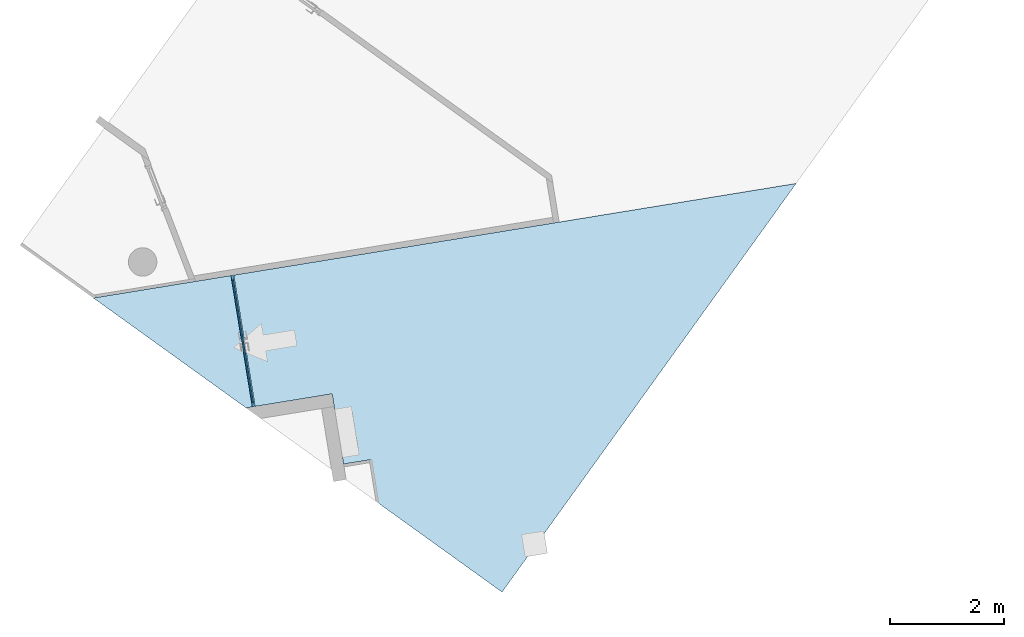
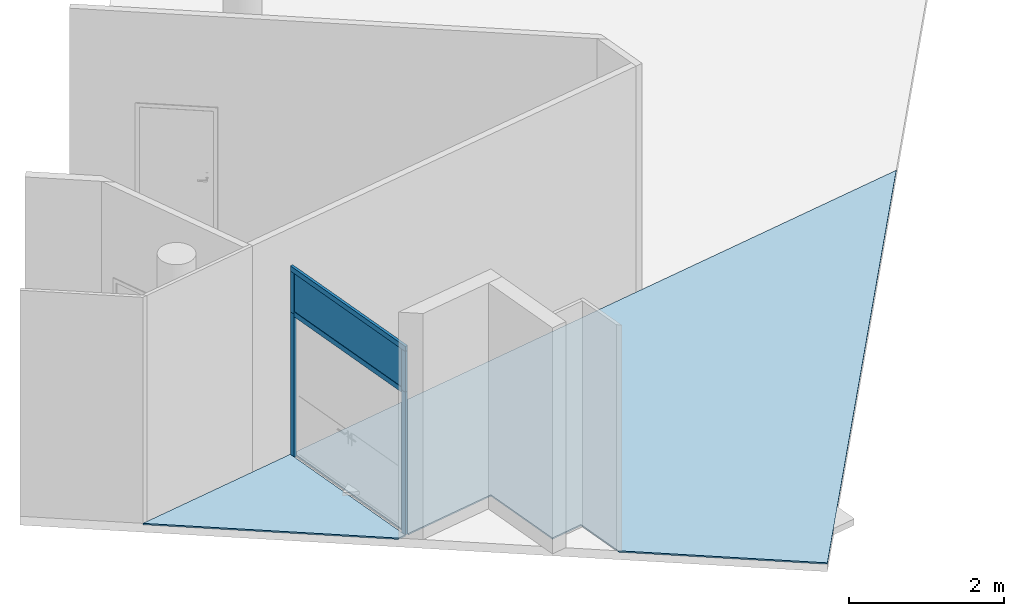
# One storey, part 2 of 10: 6 members, 2 slabs, 1 plate, 1 element without a shape of its own.
"""IFC2X3 building model written with IfcOpenShell, lengths in millimetres."""

from ifc_helpers import new_model, entity, si_unit, converted_unit, derived_unit, direction, frame, origin, origin_with_axes, origin_2d_with_axis, place, context, subcontext, project, spatial, rectangle, extrude, faceted_brep, source, transform, mapped, material, layer, layer_set, type_object, element, aggregate, save


model = new_model("IFC2X3")

# Units and contexts
model_context = context("Model", 3, precision=0.01, world=origin(), true_north=direction((6.12323399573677e-17, 1.0)))
plan_context = context("Plan", 3, precision=1e-05, world=origin_with_axes())
body_context = subcontext(model_context, "Body", "Model", "MODEL_VIEW")
ifc_project = project(units=[converted_unit("PLANEANGLEUNIT", "DEGREE", entity("IfcPositiveLengthMeasure", 0.0174532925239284), si_unit("PLANEANGLEUNIT", "RADIAN"), dimensions=[0, 0, 0, 0, 0, 0, 0]), si_unit("AREAUNIT", "SQUARE_METRE"), si_unit("LENGTHUNIT", "METRE", prefix="MILLI"), si_unit("MASSUNIT", "GRAM", prefix="KILO"), si_unit("POWERUNIT", "WATT"), si_unit("PRESSUREUNIT", "PASCAL", prefix="KILO"), si_unit("FORCEUNIT", "NEWTON", prefix="KILO"), si_unit("ELECTRICVOLTAGEUNIT", "VOLT"), si_unit("ELECTRICCURRENTUNIT", "AMPERE"), si_unit("THERMODYNAMICTEMPERATUREUNIT", "DEGREE_CELSIUS"), si_unit("TIMEUNIT", "SECOND"), si_unit("VOLUMEUNIT", "CUBIC_METRE"), derived_unit("LINEARVELOCITYUNIT", [(si_unit("LENGTHUNIT", "METRE"), 1), (si_unit("TIMEUNIT", "SECOND"), -1)]), derived_unit("VOLUMETRICFLOWRATEUNIT", [(si_unit("VOLUMEUNIT", "CUBIC_METRE"), 1), (si_unit("TIMEUNIT", "SECOND"), -1)]), derived_unit("THERMALTRANSMITTANCEUNIT", [(si_unit("POWERUNIT", "WATT"), 1), (si_unit("THERMODYNAMICTEMPERATUREUNIT", "KELVIN"), -1), (si_unit("AREAUNIT", "SQUARE_METRE"), -1)]), derived_unit("SOUNDPRESSUREUNIT", [(si_unit("PRESSUREUNIT", "PASCAL"), 1)])], contexts=[model_context, plan_context])

# Site, building, storey
site_placement = place(None, frame((-305029.896016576, -232111.759730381, 0.0), z_axis=(0.0, 0.0, 1.0), x_axis=(-0.160806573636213, 0.986985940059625, 0.0)))
site = spatial("IfcSite", under=ifc_project, at=site_placement, Name="Default", CompositionType="ELEMENT")
building_placement = place(site_placement, frame((0.0, 0.0, 0.0), z_axis=(0.0, 0.0, 1.0), x_axis=(1.0, -2.77555756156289e-17, 0.0)))
building = spatial("IfcBuilding", under=site, at=building_placement, Name="br001-a-200-1-0001", CompositionType="ELEMENT")
storey_placement = place(building_placement, frame((0.0, 0.0, 55500.0), z_axis=(0.0, 0.0, 1.0), x_axis=(1.0, -2.77555756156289e-17, 0.0)))
storey = spatial("IfcBuildingStorey", under=building, at=storey_placement, Name="H02-Nivå F-3,5 m", CompositionType="ELEMENT", Elevation=55500.0)

# Curtain wall, members, plate
curtain_wall_type = type_object("IfcCurtainWallType", Name="Curtain Wall:A243 Innvendig glassvegg", PredefinedType="NOTDEFINED")
curtain_wall_placement = place(storey_placement, frame((0.0, 0.0, -55500.0), z_axis=(0.0, 0.0, 1.0), x_axis=(1.0, -2.77555756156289e-17, 0.0)))
curtain_wall = element("IfcCurtainWall", 1, at=curtain_wall_placement, inside=storey, type_object=curtain_wall_type, Name="Curtain Wall:A243 Innvendig glassvegg", ObjectType="Curtain Wall:A243 Innvendig glassvegg")
ifc_material_1 = material(Name="Metal - Aluminium")
member_type_1 = type_object("IfcMemberType", Name="Rectangular Mullion:80 x 40 mm", PredefinedType="MULLION", material=ifc_material_1)
shared_shape_1 = source(origin(), body_context, "Body", "SweptSolid", [
    extrude(rectangle(XDim=80.0, YDim=40.0, at=origin_2d_with_axis()), frame((-40.0, 0.0, -640.0), z_axis=(0.0, 0.0, 1.0), x_axis=(-1.0, 0.0, 0.0)), (0.0, 0.0, 1.0), 639.999999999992),
])
member_1_placement = place(curtain_wall_placement, frame((1175854.09858442, -676279.199921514, 58380.0), z_axis=(0.0, 0.0, 1.0), x_axis=(-1.0, 2.77555756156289e-17, 0.0)))
member_1 = element("IfcMember", 2, at=member_1_placement, type_object=member_type_1, material=ifc_material_1, Name="Rectangular Mullion:80 x 40 mm", ObjectType="Rectangular Mullion:80 x 40 mm", context=body_context, shape_type="MappedRepresentation", body=[
    mapped(shared_shape_1, transform((0.0, 0.0, 0.0), scale=1.0)),
])
member_type_2 = type_object("IfcMemberType", Name="Rectangular Mullion:80 x 40 mm", PredefinedType="MULLION", material=ifc_material_1)
member_2_placement = place(curtain_wall_placement, frame((1178192.59858442, -676279.199921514, 57740.0), z_axis=(0.0, 0.0, -1.0), x_axis=(1.0, -2.77555756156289e-17, 0.0)))
member_2 = element("IfcMember", 3, at=member_2_placement, type_object=member_type_2, material=ifc_material_1, Name="Rectangular Mullion:80 x 40 mm", ObjectType="Rectangular Mullion:80 x 40 mm", context=body_context, shape_type="MappedRepresentation", body=[
    mapped(shared_shape_1, transform((0.0, 0.0, 0.0), scale=1.0)),
])
member_type_3 = type_object("IfcMemberType", Name="Rectangular Mullion:80 x 40 mm", PredefinedType="MULLION", material=ifc_material_1)
shared_shape_2 = source(origin(), body_context, "Body", "SweptSolid", [
    extrude(rectangle(XDim=80.0, YDim=40.0, at=origin_2d_with_axis()), frame((-40.0, 0.0, -2338.49999999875), z_axis=(0.0, 0.0, 1.0), x_axis=(-1.0, 0.0, 0.0)), (0.0, 0.0, 1.0), 2338.49999999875),
])
member_3_placement = place(curtain_wall_placement, frame((1178192.59858442, -676279.199921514, 58460.0), z_axis=(1.0, -2.77555756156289e-17, 0.0), x_axis=(0.0, 0.0, 1.0)))
member_3 = element("IfcMember", 4, at=member_3_placement, type_object=member_type_3, material=ifc_material_1, Name="Rectangular Mullion:80 x 40 mm", ObjectType="Rectangular Mullion:80 x 40 mm", context=body_context, shape_type="MappedRepresentation", body=[
    mapped(shared_shape_2, transform((0.0, 0.0, 0.0), scale=1.0)),
])
member_type_4 = type_object("IfcMemberType", Name="Rectangular Mullion:80 x 40 mm", PredefinedType="MULLION", material=ifc_material_1)
shared_shape_3 = source(origin(), body_context, "Body", "SweptSolid", [
    extrude(rectangle(XDim=80.0, YDim=40.0, at=origin_2d_with_axis()), frame((-40.0, 0.0, -2240.0), z_axis=(0.0, 0.0, 1.0), x_axis=(-1.0, 0.0, 0.0)), (0.0, 0.0, 1.0), 2240.00000000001),
])
member_4_placement = place(curtain_wall_placement, frame((1178192.59858442, -676279.199921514, 55500.0), z_axis=(0.0, 0.0, -1.0), x_axis=(1.0, -2.77555756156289e-17, 0.0)))
member_4 = element("IfcMember", 5, at=member_4_placement, type_object=member_type_4, material=ifc_material_1, Name="Rectangular Mullion:80 x 40 mm", ObjectType="Rectangular Mullion:80 x 40 mm", context=body_context, shape_type="MappedRepresentation", body=[
    mapped(shared_shape_3, transform((0.0, 0.0, 0.0), scale=1.0)),
])
member_type_5 = type_object("IfcMemberType", Name="Rectangular Mullion:80 x 40 mm", PredefinedType="MULLION", material=ifc_material_1)
member_5_placement = place(curtain_wall_placement, frame((1175854.09858442, -676279.199921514, 57740.0), z_axis=(0.0, 0.0, 1.0), x_axis=(-1.0, 2.77555756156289e-17, 0.0)))
member_5 = element("IfcMember", 6, at=member_5_placement, type_object=member_type_5, material=ifc_material_1, Name="Rectangular Mullion:80 x 40 mm", ObjectType="Rectangular Mullion:80 x 40 mm", context=body_context, shape_type="MappedRepresentation", body=[
    mapped(shared_shape_3, transform((0.0, 0.0, 0.0), scale=1.0)),
])
member_type_6 = type_object("IfcMemberType", Name="Rectangular Mullion:80 x 40 mm", PredefinedType="MULLION", material=ifc_material_1)
shared_shape_4 = source(origin(), body_context, "Body", "SweptSolid", [
    extrude(rectangle(XDim=80.0, YDim=40.0, at=origin_2d_with_axis()), frame((0.0, 0.0, -2178.49999999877), z_axis=(0.0, 0.0, 1.0), x_axis=(-1.0, 0.0, 0.0)), (0.0, 0.0, 1.0), 2178.49999999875),
])
member_6_placement = place(curtain_wall_placement, frame((1178112.59858442, -676279.199921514, 57740.0), z_axis=(1.0, -2.77555756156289e-17, 0.0), x_axis=(0.0, 0.0, 1.0)))
member_6 = element("IfcMember", 7, at=member_6_placement, type_object=member_type_6, material=ifc_material_1, Name="Rectangular Mullion:80 x 40 mm", ObjectType="Rectangular Mullion:80 x 40 mm", context=body_context, shape_type="MappedRepresentation", body=[
    mapped(shared_shape_4, transform((0.0, 0.0, 0.0), scale=1.0)),
])
ifc_material_2 = material(Name="_Flesland Glass")
plate_type = type_object("IfcPlateType", Name="System Panel:A234 - Systemglass", PredefinedType="CURTAIN_PANEL", material=ifc_material_2)
shared_shape_5 = source(origin(), body_context, "Body", "SweptSolid", [
    extrude(rectangle(XDim=25.0, YDim=2178.49999999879, at=origin_2d_with_axis()), frame((0.0, 0.0, 0.0), z_axis=(0.0, 0.0, 1.0), x_axis=(0.0, 1.0, 0.0)), (0.0, 0.0, 1.0), 599.999999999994),
])
plate_placement = place(curtain_wall_placement, frame((1177023.34858442, -676279.199921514, 57780.0), z_axis=(0.0, 0.0, 1.0), x_axis=(1.0, -2.77555756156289e-17, 0.0)))
plate = element("IfcPlate", 8, at=plate_placement, type_object=plate_type, material=ifc_material_2, Name="System Panel:A234 - Systemglass", ObjectType="System Panel:A234 - Systemglass", context=body_context, shape_type="MappedRepresentation", body=[
    mapped(shared_shape_5, transform((0.0, 0.0, 0.0), scale=1.0)),
])
aggregate(curtain_wall, [member_1, member_3, member_4, member_6, member_2, member_5, plate])

# Slabs
ifc_material_3 = material(Name="Tre")
ifc_layer = layer(ifc_material_3, 22.0)
ifc_layer_set = layer_set([ifc_layer], Name="Floor:Eikeparkett 22mm")
slab_type = type_object("IfcSlabType", Name="Floor:Eikeparkett 22mm", PredefinedType="FLOOR", material=ifc_layer_set)
slab_1_placement = place(storey_placement, frame((0.0, 0.0, 0.0), z_axis=(0.0, 0.0, 1.0), x_axis=(1.0, -2.77555756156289e-17, 0.0)))
element("IfcSlab", 9, at=slab_1_placement, inside=storey, type_object=slab_type, Name="Floor:Eikeparkett 22mm", ObjectType="Floor:Eikeparkett 22mm", PredefinedType="FLOOR", context=body_context, shape_type="Brep", body=[
    faceted_brep([(1178192.59858442, -673809.08371284, 0.0), (1178192.59858442, -673809.08371284, -22.0000000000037), (1178192.59858442, -676259.199921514, -22.0000000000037), (1178192.59858442, -676259.199921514, 0.0), (1175854.09858442, -676259.199921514, -22.0000000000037), (1175854.09858442, -676259.199921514, 0.0), (1175854.09858442, -676147.583712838, -22.0000000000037), (1175854.09858442, -676147.583712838, 0.0)], [[[0, 1, 2, 3]], [[3, 2, 4, 5]], [[6, 7, 5, 4]], [[7, 0, 3, 5]], [[1, 6, 4, 2]], [[7, 6, 1, 0]]], orient=[[False], [False], [False], [False], [False], [False]]),
])
slab_2_placement = place(storey_placement, frame((0.0, 0.0, 0.0), z_axis=(0.0, 0.0, 1.0), x_axis=(1.0, -2.77555756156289e-17, 0.0)))
element("IfcSlab", 10, at=slab_2_placement, inside=storey, type_object=slab_type, Name="Floor:Eikeparkett 22mm", ObjectType="Floor:Eikeparkett 22mm", PredefinedType="FLOOR", context=body_context, shape_type="Brep", body=[
    faceted_brep([(1173844.80393024, -678156.878367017, 0.0), (1173844.80393024, -678156.878367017, -22.0000000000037), (1174603.59858442, -678156.878367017, -22.0000000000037), (1174603.59858442, -678156.878367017, 0.0), (1174603.59858442, -677681.378367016, -22.0000000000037), (1174603.59858442, -677681.378367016, 0.0), (1175854.09858442, -677681.378367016, -22.0000000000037), (1175854.09858442, -677681.378367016, 0.0), (1175854.09858442, -676309.199921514, -22.0000000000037), (1175854.09858442, -676309.199921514, 0.0), (1178192.59858442, -676309.199921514, -22.0000000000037), (1178192.59858442, -676309.199921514, 0.0), (1178192.59858442, -686328.474477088, -22.0000000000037), (1178192.59858442, -686328.474477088, 0.0), (1171932.90320229, -680068.779094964, 0.0), (1171932.90320229, -680068.779094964, -22.0000000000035)], [[[0, 1, 2, 3]], [[3, 2, 4, 5]], [[5, 4, 6, 7]], [[7, 6, 8, 9]], [[9, 8, 10, 11]], [[12, 13, 11, 10]], [[13, 14, 0, 3, 5, 7, 9, 11]], [[1, 15, 12, 10, 8, 6, 4, 2]], [[15, 1, 0, 14]], [[14, 13, 12, 15]]], orient=[[False], [False], [False], [False], [False], [False], [False], [False], [False], [False]]),
])

save(model, "model.ifc")
